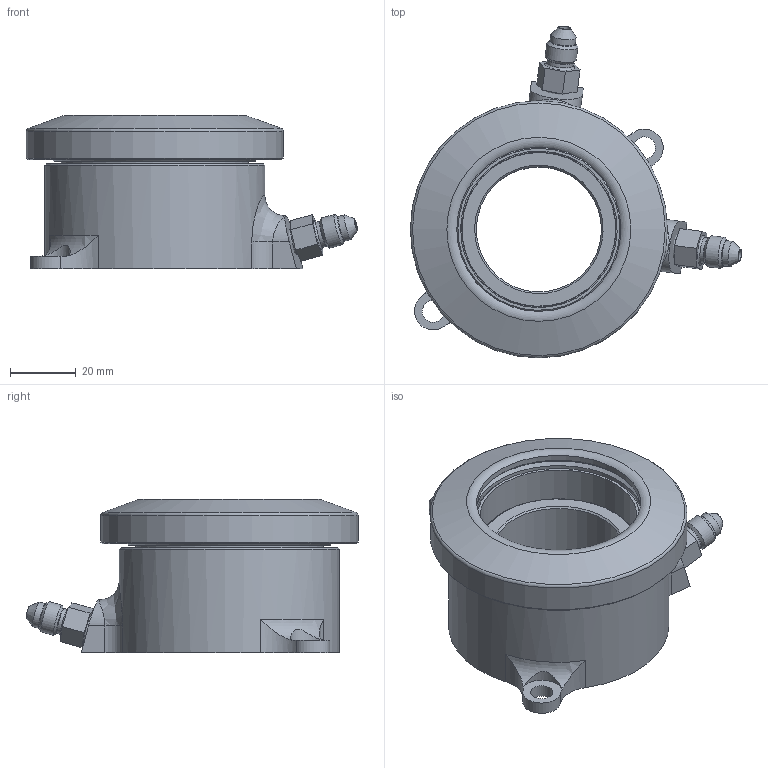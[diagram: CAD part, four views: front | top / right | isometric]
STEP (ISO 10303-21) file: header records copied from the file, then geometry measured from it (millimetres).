
FILE_DESCRIPTION(/* description */ ('Unknown'),/* implementation_level */ '2;1');
FILE_NAME(/* name */ '60-8400 SIMPLIFIED',/* time_stamp */ '2023-07-25T07:27:27-07:00',/* author */ ('Unknown'),/* organization */ ('Unknown'),/* preprocessor_version */ 'ST-DEVELOPER v18.104',/* originating_system */ 'Solid Edge',/* authorisation */ 'Unknown');
FILE_SCHEMA (('AUTOMOTIVE_DESIGN {1 0 10303 214 3 1 1}'));
Length unit declared in the file: millimetre
Products named in the file (1): 60-8400 SIMPLIFIED
Bounding box: 100.92 x 101.1 x 46.69 mm (x, y, z)
Volume: 112596.5 mm3; surface area: 46547.6 mm2
Topology: 26 solids, 26 shells, 183 faces, 466 edges, 327 vertices
Faces by surface type: cylinder 64, plane 48, cone 27, torus 24, sphere 18, bspline 2
Full cylindrical faces by diameter (mm): 3.175 x2, 6.756 x2, 7.734 x4, 7.925 x4, 9.525 x4, 38.1 x1, 47.676 x1, 50 x1, 50.8 x1, 50.832 x1, 57.099 x1, 59 x1, 59.032 x1, 61.5 x1, 61.925 x1, 62.4 x2, 67.056 x1, 69.7 x1, 73 x1, 74 x2, 78.3 x1
Entity records: 6455 total; most frequent: CARTESIAN_POINT 1734, DIRECTION 714, ORIENTED_EDGE 632, AXIS2_PLACEMENT_3D 322, EDGE_CURVE 316, FACE_BOUND 314, VERTEX_POINT 296, EDGE_LOOP 296
